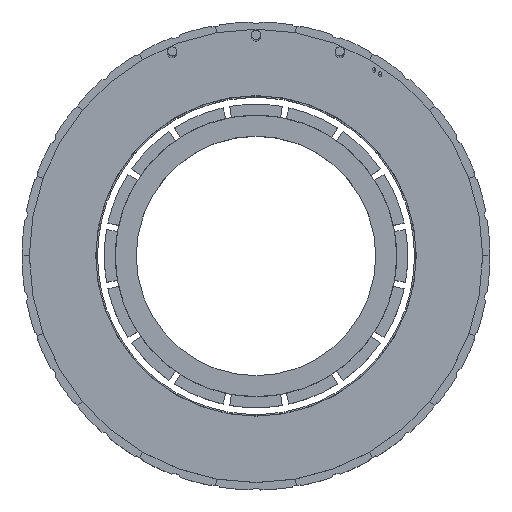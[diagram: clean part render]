
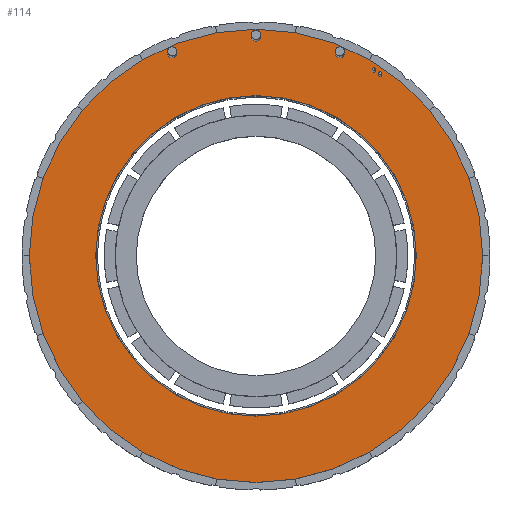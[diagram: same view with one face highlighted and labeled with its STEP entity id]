
A CAD part, top view. The second image highlights one B-rep face of the part: STEP entity #114.
In plain terms, the highlighted planar face has unit normal (0, 0, 1).
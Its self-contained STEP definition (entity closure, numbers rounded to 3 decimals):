
#2 = CARTESIAN_POINT ( 'NONE',  ( 0., 0., 36. ) ) ;
#72 = DIRECTION ( 'NONE',  ( 1., 0., 0. ) ) ;
#102 = DIRECTION ( 'NONE',  ( 1., 0., 0. ) ) ;
#114 = ADVANCED_FACE ( 'NONE', ( #1767, #601, #4678, #3477, #4262, #4756, #1442 ), #3915, .T. ) ;
#165 = DIRECTION ( 'NONE',  ( 1., 0., 0. ) ) ;
#173 = ORIENTED_EDGE ( 'NONE', *, *, #4931, .T. ) ;
#182 = DIRECTION ( 'NONE',  ( 0., 0., 1. ) ) ;
#206 = ORIENTED_EDGE ( 'NONE', *, *, #3540, .F. ) ;
#355 = CARTESIAN_POINT ( 'NONE',  ( -61.5, 0., 36. ) ) ;
#404 = EDGE_LOOP ( 'NONE', ( #927, #5085 ) ) ;
#439 = CIRCLE ( 'NONE', #2953, 43.5 ) ;
#511 = DIRECTION ( 'NONE',  ( 1., 0., 0. ) ) ;
#519 = DIRECTION ( 'NONE',  ( 0., 0., 1. ) ) ;
#524 = CARTESIAN_POINT ( 'NONE',  ( 31.569, 50.182, 36. ) ) ;
#527 = CARTESIAN_POINT ( 'NONE',  ( 21.515, 54.971, 36. ) ) ;
#580 = CARTESIAN_POINT ( 'NONE',  ( 32.369, 50.182, 36. ) ) ;
#581 = ORIENTED_EDGE ( 'NONE', *, *, #1522, .F. ) ;
#601 = FACE_BOUND ( 'NONE', #2010, .T. ) ;
#616 = DIRECTION ( 'NONE',  ( 1., 0., 0. ) ) ;
#618 = CIRCLE ( 'NONE', #784, 1.255 ) ;
#657 = CARTESIAN_POINT ( 'NONE',  ( 43.5, 0., 36. ) ) ;
#669 = VERTEX_POINT ( 'NONE', #3574 ) ;
#703 = AXIS2_PLACEMENT_3D ( 'NONE', #2626, #519, #165 ) ;
#740 = CARTESIAN_POINT ( 'NONE',  ( -22.77, 54.971, 36. ) ) ;
#784 = AXIS2_PLACEMENT_3D ( 'NONE', #4601, #877, #4863 ) ;
#845 = EDGE_CURVE ( 'NONE', #3220, #5264, #2084, .T. ) ;
#862 = CARTESIAN_POINT ( 'NONE',  ( -24.025, 54.971, 36. ) ) ;
#864 = CIRCLE ( 'NONE', #4853, 1.255 ) ;
#877 = DIRECTION ( 'NONE',  ( 0., 0., 1. ) ) ;
#927 = ORIENTED_EDGE ( 'NONE', *, *, #1529, .F. ) ;
#1003 = CARTESIAN_POINT ( 'NONE',  ( 0., 59.5, 36. ) ) ;
#1038 = EDGE_LOOP ( 'NONE', ( #2698, #4321 ) ) ;
#1069 = VERTEX_POINT ( 'NONE', #4858 ) ;
#1094 = VERTEX_POINT ( 'NONE', #657 ) ;
#1184 = CARTESIAN_POINT ( 'NONE',  ( 31.969, 50.182, 36. ) ) ;
#1250 = CARTESIAN_POINT ( 'NONE',  ( 24.025, 54.971, 36. ) ) ;
#1272 = CARTESIAN_POINT ( 'NONE',  ( 34.101, 49.036, 36. ) ) ;
#1273 = ORIENTED_EDGE ( 'NONE', *, *, #3052, .F. ) ;
#1351 = ORIENTED_EDGE ( 'NONE', *, *, #845, .F. ) ;
#1370 = AXIS2_PLACEMENT_3D ( 'NONE', #2562, #4307, #616 ) ;
#1390 = CARTESIAN_POINT ( 'NONE',  ( 0., 0., 36. ) ) ;
#1422 = EDGE_CURVE ( 'NONE', #669, #1094, #439, .T. ) ;
#1427 = VERTEX_POINT ( 'NONE', #862 ) ;
#1440 = DIRECTION ( 'NONE',  ( 1., 0., 0. ) ) ;
#1442 = FACE_BOUND ( 'NONE', #1038, .T. ) ;
#1456 = CARTESIAN_POINT ( 'NONE',  ( 1.255, 59.5, 36. ) ) ;
#1501 = DIRECTION ( 'NONE',  ( 1., 0., 0. ) ) ;
#1522 = EDGE_CURVE ( 'NONE', #3393, #1069, #5317, .T. ) ;
#1529 = EDGE_CURVE ( 'NONE', #2941, #1848, #2050, .T. ) ;
#1588 = CARTESIAN_POINT ( 'NONE',  ( 0., 0., 36. ) ) ;
#1680 = EDGE_CURVE ( 'NONE', #1848, #2941, #2587, .T. ) ;
#1685 = EDGE_CURVE ( 'NONE', #5264, #3220, #864, .T. ) ;
#1758 = EDGE_CURVE ( 'NONE', #1069, #3393, #3367, .T. ) ;
#1767 = FACE_BOUND ( 'NONE', #2665, .T. ) ;
#1777 = VERTEX_POINT ( 'NONE', #355 ) ;
#1788 = EDGE_CURVE ( 'NONE', #1094, #669, #2131, .T. ) ;
#1793 = CARTESIAN_POINT ( 'NONE',  ( -21.515, 54.971, 36. ) ) ;
#1798 = EDGE_LOOP ( 'NONE', ( #206, #4269 ) ) ;
#1817 = DIRECTION ( 'NONE',  ( 1., 0., 0. ) ) ;
#1848 = VERTEX_POINT ( 'NONE', #1456 ) ;
#1876 = CIRCLE ( 'NONE', #3986, 61.5 ) ;
#1988 = VERTEX_POINT ( 'NONE', #524 ) ;
#2010 = EDGE_LOOP ( 'NONE', ( #2295, #581 ) ) ;
#2018 = EDGE_CURVE ( 'NONE', #1777, #3370, #1876, .T. ) ;
#2050 = CIRCLE ( 'NONE', #2774, 1.255 ) ;
#2084 = CIRCLE ( 'NONE', #703, 1.255 ) ;
#2106 = CARTESIAN_POINT ( 'NONE',  ( 31.969, 50.182, 36. ) ) ;
#2111 = DIRECTION ( 'NONE',  ( 0., 0., 1. ) ) ;
#2131 = CIRCLE ( 'NONE', #3461, 43.5 ) ;
#2240 = VERTEX_POINT ( 'NONE', #1793 ) ;
#2281 = VERTEX_POINT ( 'NONE', #580 ) ;
#2295 = ORIENTED_EDGE ( 'NONE', *, *, #1758, .F. ) ;
#2412 = DIRECTION ( 'NONE',  ( 0., 0., 1. ) ) ;
#2431 = DIRECTION ( 'NONE',  ( 0., 0., 1. ) ) ;
#2491 = DIRECTION ( 'NONE',  ( 0., 0., 1. ) ) ;
#2513 = AXIS2_PLACEMENT_3D ( 'NONE', #1390, #3125, #1817 ) ;
#2562 = CARTESIAN_POINT ( 'NONE',  ( 33.701, 49.036, 36. ) ) ;
#2587 = CIRCLE ( 'NONE', #3028, 1.255 ) ;
#2588 = EDGE_LOOP ( 'NONE', ( #2673, #173 ) ) ;
#2626 = CARTESIAN_POINT ( 'NONE',  ( 22.77, 54.971, 36. ) ) ;
#2661 = EDGE_CURVE ( 'NONE', #1988, #2281, #4688, .T. ) ;
#2665 = EDGE_LOOP ( 'NONE', ( #4008, #1273 ) ) ;
#2673 = ORIENTED_EDGE ( 'NONE', *, *, #2018, .T. ) ;
#2674 = DIRECTION ( 'NONE',  ( 0., 0., 1. ) ) ;
#2688 = DIRECTION ( 'NONE',  ( 0., 0., 1. ) ) ;
#2698 = ORIENTED_EDGE ( 'NONE', *, *, #1422, .F. ) ;
#2748 = ORIENTED_EDGE ( 'NONE', *, *, #1685, .F. ) ;
#2774 = AXIS2_PLACEMENT_3D ( 'NONE', #1003, #4225, #511 ) ;
#2823 = DIRECTION ( 'NONE',  ( 1., 0., 0. ) ) ;
#2941 = VERTEX_POINT ( 'NONE', #3884 ) ;
#2950 = DIRECTION ( 'NONE',  ( 1., 0., 0. ) ) ;
#2953 = AXIS2_PLACEMENT_3D ( 'NONE', #1588, #2111, #2950 ) ;
#2967 = DIRECTION ( 'NONE',  ( 1., 0., 0. ) ) ;
#3028 = AXIS2_PLACEMENT_3D ( 'NONE', #5044, #182, #102 ) ;
#3052 = EDGE_CURVE ( 'NONE', #2281, #1988, #4693, .T. ) ;
#3125 = DIRECTION ( 'NONE',  ( 0., 0., 1. ) ) ;
#3136 = CARTESIAN_POINT ( 'NONE',  ( 22.77, 54.971, 36. ) ) ;
#3220 = VERTEX_POINT ( 'NONE', #527 ) ;
#3309 = CARTESIAN_POINT ( 'NONE',  ( 61.5, 0., 36. ) ) ;
#3367 = CIRCLE ( 'NONE', #3557, 0.4 ) ;
#3370 = VERTEX_POINT ( 'NONE', #3309 ) ;
#3380 = AXIS2_PLACEMENT_3D ( 'NONE', #2106, #4244, #72 ) ;
#3393 = VERTEX_POINT ( 'NONE', #1272 ) ;
#3409 = EDGE_CURVE ( 'NONE', #2240, #1427, #618, .T. ) ;
#3461 = AXIS2_PLACEMENT_3D ( 'NONE', #5182, #4901, #2823 ) ;
#3477 = FACE_BOUND ( 'NONE', #3974, .T. ) ;
#3540 = EDGE_CURVE ( 'NONE', #1427, #2240, #4253, .T. ) ;
#3557 = AXIS2_PLACEMENT_3D ( 'NONE', #3983, #4360, #4928 ) ;
#3571 = DIRECTION ( 'NONE',  ( 1., 0., 0. ) ) ;
#3574 = CARTESIAN_POINT ( 'NONE',  ( -43.5, 0., 36. ) ) ;
#3884 = CARTESIAN_POINT ( 'NONE',  ( -1.255, 59.5, 36. ) ) ;
#3915 = PLANE ( 'NONE',  #2513 ) ;
#3974 = EDGE_LOOP ( 'NONE', ( #1351, #2748 ) ) ;
#3983 = CARTESIAN_POINT ( 'NONE',  ( 33.701, 49.036, 36. ) ) ;
#3986 = AXIS2_PLACEMENT_3D ( 'NONE', #2, #2491, #2967 ) ;
#4008 = ORIENTED_EDGE ( 'NONE', *, *, #2661, .F. ) ;
#4225 = DIRECTION ( 'NONE',  ( 0., 0., 1. ) ) ;
#4244 = DIRECTION ( 'NONE',  ( 0., 0., 1. ) ) ;
#4253 = CIRCLE ( 'NONE', #4957, 1.255 ) ;
#4262 = FACE_BOUND ( 'NONE', #404, .T. ) ;
#4269 = ORIENTED_EDGE ( 'NONE', *, *, #3409, .F. ) ;
#4276 = CIRCLE ( 'NONE', #4367, 61.5 ) ;
#4307 = DIRECTION ( 'NONE',  ( 0., 0., 1. ) ) ;
#4321 = ORIENTED_EDGE ( 'NONE', *, *, #1788, .F. ) ;
#4360 = DIRECTION ( 'NONE',  ( 0., 0., 1. ) ) ;
#4367 = AXIS2_PLACEMENT_3D ( 'NONE', #5248, #2674, #5179 ) ;
#4601 = CARTESIAN_POINT ( 'NONE',  ( -22.77, 54.971, 36. ) ) ;
#4678 = FACE_BOUND ( 'NONE', #1798, .T. ) ;
#4688 = CIRCLE ( 'NONE', #4862, 0.4 ) ;
#4693 = CIRCLE ( 'NONE', #3380, 0.4 ) ;
#4756 = FACE_OUTER_BOUND ( 'NONE', #2588, .T. ) ;
#4853 = AXIS2_PLACEMENT_3D ( 'NONE', #3136, #2412, #3571 ) ;
#4858 = CARTESIAN_POINT ( 'NONE',  ( 33.301, 49.036, 36. ) ) ;
#4862 = AXIS2_PLACEMENT_3D ( 'NONE', #1184, #2431, #1501 ) ;
#4863 = DIRECTION ( 'NONE',  ( 1., 0., 0. ) ) ;
#4901 = DIRECTION ( 'NONE',  ( 0., 0., 1. ) ) ;
#4928 = DIRECTION ( 'NONE',  ( 1., 0., 0. ) ) ;
#4931 = EDGE_CURVE ( 'NONE', #3370, #1777, #4276, .T. ) ;
#4957 = AXIS2_PLACEMENT_3D ( 'NONE', #740, #2688, #1440 ) ;
#5044 = CARTESIAN_POINT ( 'NONE',  ( 0., 59.5, 36. ) ) ;
#5085 = ORIENTED_EDGE ( 'NONE', *, *, #1680, .F. ) ;
#5179 = DIRECTION ( 'NONE',  ( 1., 0., 0. ) ) ;
#5182 = CARTESIAN_POINT ( 'NONE',  ( 0., 0., 36. ) ) ;
#5248 = CARTESIAN_POINT ( 'NONE',  ( 0., 0., 36. ) ) ;
#5264 = VERTEX_POINT ( 'NONE', #1250 ) ;
#5317 = CIRCLE ( 'NONE', #1370, 0.4 ) ;
